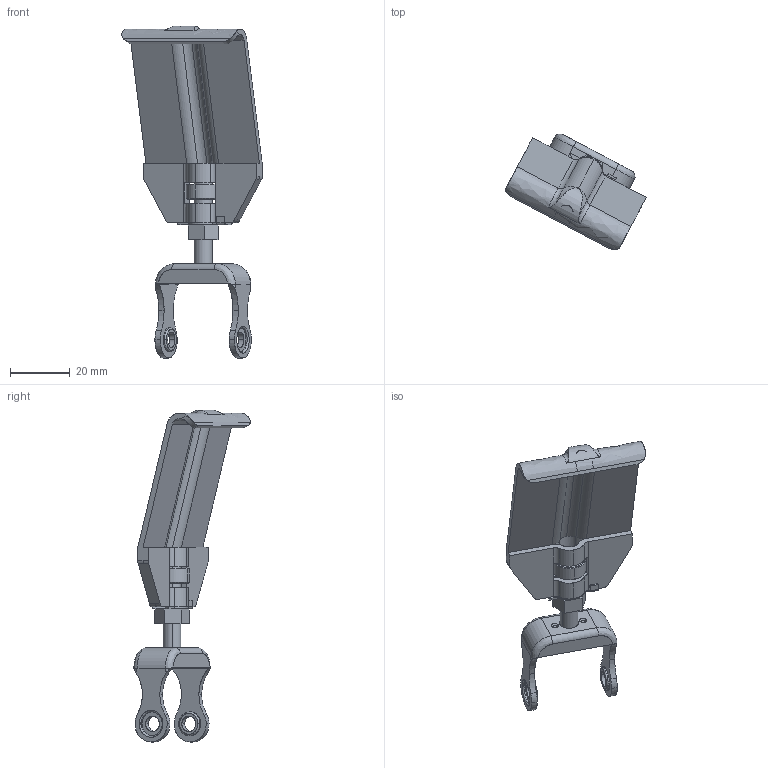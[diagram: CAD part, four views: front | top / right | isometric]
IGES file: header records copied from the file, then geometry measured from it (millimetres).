
Start section: SolidWorks IGES FILE using analytic representation for surfaces
Global section: file name: C:\Documents and Settings\lecoutey\Bureau\GR 57\Assemblage GR57 IB.IGS; native system: SolidWorks 2004 by SolidWorks Corporation; preprocessor: Version 5.3; author: lecoutey; date: 050330.133023; units: millimetre
Bounding box: 47.07 x 39.02 x 111.31 mm (x, y, z)
Surface area: 12008.2 mm2 (no closed solid volume)
Topology: 0 solids, 0 shells, 219 faces, 2584 edges, 2584 vertices
Faces by surface type: bspline 124, revolution 95
